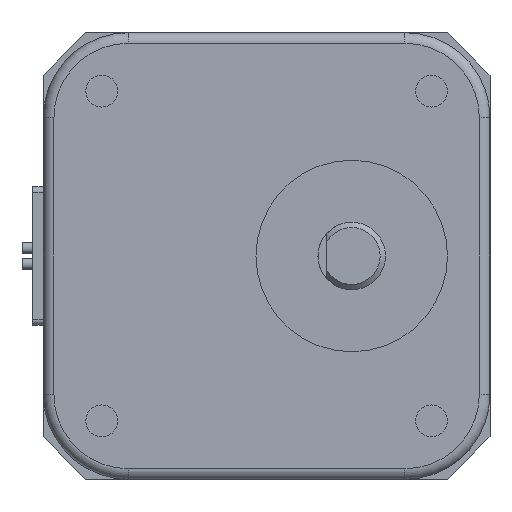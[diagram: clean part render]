
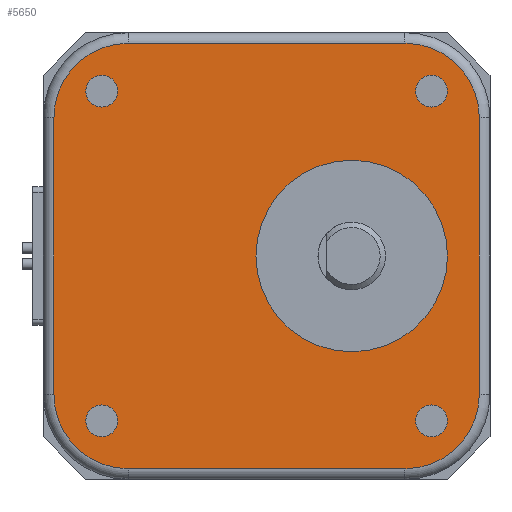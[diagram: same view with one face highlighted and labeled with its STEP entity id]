
A CAD part, front view. The second image highlights one B-rep face of the part: STEP entity #5650.
In plain terms, the highlighted planar face has unit normal (0, -1, 0) as drawn and (0, 1, 0) by its records, which use the part's own axes.
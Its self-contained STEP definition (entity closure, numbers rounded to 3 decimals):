
#4870=CARTESIAN_POINT('',(0.,30.,8.));
#4871=DIRECTION('',(0.,1.,0.));
#4872=DIRECTION('',(1.,0.,0.));
#4873=AXIS2_PLACEMENT_3D('',#4870,#4871,#4872);
#4878=CARTESIAN_POINT('',(0.,30.,8.));
#4879=DIRECTION('',(0.,1.,0.));
#4880=DIRECTION('',(-1.,0.,0.));
#4881=AXIS2_PLACEMENT_3D('',#4878,#4879,#4880);
#4886=CARTESIAN_POINT('',(-15.5,30.,-15.5));
#4887=DIRECTION('',(0.,1.,0.));
#4888=DIRECTION('',(1.,0.,0.));
#4889=AXIS2_PLACEMENT_3D('',#4886,#4887,#4888);
#4894=CARTESIAN_POINT('',(-15.5,30.,-15.5));
#4895=DIRECTION('',(0.,1.,0.));
#4896=DIRECTION('',(-1.,0.,0.));
#4897=AXIS2_PLACEMENT_3D('',#4894,#4895,#4896);
#4902=CARTESIAN_POINT('',(15.5,30.,-15.5));
#4903=DIRECTION('',(0.,1.,0.));
#4904=DIRECTION('',(1.,0.,0.));
#4905=AXIS2_PLACEMENT_3D('',#4902,#4903,#4904);
#4910=CARTESIAN_POINT('',(15.5,30.,-15.5));
#4911=DIRECTION('',(0.,1.,0.));
#4912=DIRECTION('',(-1.,0.,0.));
#4913=AXIS2_PLACEMENT_3D('',#4910,#4911,#4912);
#4918=CARTESIAN_POINT('',(-15.5,30.,15.5));
#4919=DIRECTION('',(0.,1.,0.));
#4920=DIRECTION('',(1.,0.,0.));
#4921=AXIS2_PLACEMENT_3D('',#4918,#4919,#4920);
#4926=CARTESIAN_POINT('',(-15.5,30.,15.5));
#4927=DIRECTION('',(0.,1.,0.));
#4928=DIRECTION('',(-1.,0.,0.));
#4929=AXIS2_PLACEMENT_3D('',#4926,#4927,#4928);
#4934=CARTESIAN_POINT('',(15.5,30.,15.5));
#4935=DIRECTION('',(0.,1.,0.));
#4936=DIRECTION('',(1.,0.,0.));
#4937=AXIS2_PLACEMENT_3D('',#4934,#4935,#4936);
#4942=CARTESIAN_POINT('',(15.5,30.,15.5));
#4943=DIRECTION('',(0.,1.,0.));
#4944=DIRECTION('',(-1.,0.,0.));
#4945=AXIS2_PLACEMENT_3D('',#4942,#4943,#4944);
#4950=CARTESIAN_POINT('',(-13.,30.,-13.));
#4951=DIRECTION('',(0.,1.,0.));
#4952=DIRECTION('',(0.,0.,-1.));
#4953=AXIS2_PLACEMENT_3D('',#4950,#4951,#4952);
#4958=DIRECTION('',(-1.,0.,0.));
#4959=VECTOR('',#4958,26.);
#4960=CARTESIAN_POINT('',(13.,30.,-20.));
#4961=LINE('',#4960,#4959);
#4965=CARTESIAN_POINT('',(13.,30.,-13.));
#4966=DIRECTION('',(0.,1.,0.));
#4967=DIRECTION('',(1.,0.,0.));
#4968=AXIS2_PLACEMENT_3D('',#4965,#4966,#4967);
#4973=DIRECTION('',(0.,0.,-1.));
#4974=VECTOR('',#4973,26.);
#4975=CARTESIAN_POINT('',(20.,30.,13.));
#4976=LINE('',#4975,#4974);
#4980=CARTESIAN_POINT('',(13.,30.,13.));
#4981=DIRECTION('',(0.,1.,0.));
#4982=DIRECTION('',(0.,0.,1.));
#4983=AXIS2_PLACEMENT_3D('',#4980,#4981,#4982);
#4988=DIRECTION('',(1.,0.,0.));
#4989=VECTOR('',#4988,26.);
#4990=CARTESIAN_POINT('',(-13.,30.,20.));
#4991=LINE('',#4990,#4989);
#4995=CARTESIAN_POINT('',(-13.,30.,13.));
#4996=DIRECTION('',(0.,1.,0.));
#4997=DIRECTION('',(-1.,0.,0.));
#4998=AXIS2_PLACEMENT_3D('',#4995,#4996,#4997);
#5003=DIRECTION('',(0.,0.,1.));
#5004=VECTOR('',#5003,26.);
#5005=CARTESIAN_POINT('',(-20.,30.,-13.));
#5006=LINE('',#5005,#5004);
#5444=CARTESIAN_POINT('',(9.,30.,8.));
#5445=CARTESIAN_POINT('',(-9.,30.,8.));
#5446=VERTEX_POINT('',#5444);
#5447=VERTEX_POINT('',#5445);
#5480=CARTESIAN_POINT('',(-14.,30.,-15.5));
#5481=CARTESIAN_POINT('',(-17.,30.,-15.5));
#5482=VERTEX_POINT('',#5480);
#5483=VERTEX_POINT('',#5481);
#5484=CARTESIAN_POINT('',(17.,30.,-15.5));
#5485=CARTESIAN_POINT('',(14.,30.,-15.5));
#5486=VERTEX_POINT('',#5484);
#5487=VERTEX_POINT('',#5485);
#5488=CARTESIAN_POINT('',(-14.,30.,15.5));
#5489=CARTESIAN_POINT('',(-17.,30.,15.5));
#5490=VERTEX_POINT('',#5488);
#5491=VERTEX_POINT('',#5489);
#5492=CARTESIAN_POINT('',(17.,30.,15.5));
#5493=CARTESIAN_POINT('',(14.,30.,15.5));
#5494=VERTEX_POINT('',#5492);
#5495=VERTEX_POINT('',#5493);
#5512=CARTESIAN_POINT('',(-13.,30.,-20.));
#5513=CARTESIAN_POINT('',(-20.,30.,-13.));
#5514=VERTEX_POINT('',#5512);
#5515=VERTEX_POINT('',#5513);
#5520=CARTESIAN_POINT('',(-20.,30.,13.));
#5521=VERTEX_POINT('',#5520);
#5524=CARTESIAN_POINT('',(-13.,30.,20.));
#5525=VERTEX_POINT('',#5524);
#5528=CARTESIAN_POINT('',(13.,30.,20.));
#5529=VERTEX_POINT('',#5528);
#5532=CARTESIAN_POINT('',(20.,30.,13.));
#5533=VERTEX_POINT('',#5532);
#5536=CARTESIAN_POINT('',(20.,30.,-13.));
#5537=VERTEX_POINT('',#5536);
#5540=CARTESIAN_POINT('',(13.,30.,-20.));
#5541=VERTEX_POINT('',#5540);
#5598=CARTESIAN_POINT('',(0.,30.,0.));
#5599=DIRECTION('',(0.,1.,0.));
#5600=DIRECTION('',(1.,0.,0.));
#5601=AXIS2_PLACEMENT_3D('',#5598,#5599,#5600);
#5602=PLANE('',#5601);
#5604=ORIENTED_EDGE('',*,*,#5603,.F.);
#5606=ORIENTED_EDGE('',*,*,#5605,.F.);
#5607=ORIENTED_EDGE('',*,*,#5588,.F.);
#5609=ORIENTED_EDGE('',*,*,#5608,.F.);
#5611=ORIENTED_EDGE('',*,*,#5610,.F.);
#5613=ORIENTED_EDGE('',*,*,#5612,.F.);
#5615=ORIENTED_EDGE('',*,*,#5614,.F.);
#5617=ORIENTED_EDGE('',*,*,#5616,.F.);
#5618=EDGE_LOOP('',(#5604,#5606,#5607,#5609,#5611,#5613,#5615,#5617));
#5619=FACE_OUTER_BOUND('',#5618,.F.);
#5621=ORIENTED_EDGE('',*,*,#5620,.T.);
#5623=ORIENTED_EDGE('',*,*,#5622,.T.);
#5624=EDGE_LOOP('',(#5621,#5623));
#5625=FACE_BOUND('',#5624,.F.);
#5627=ORIENTED_EDGE('',*,*,#5626,.T.);
#5629=ORIENTED_EDGE('',*,*,#5628,.T.);
#5630=EDGE_LOOP('',(#5627,#5629));
#5631=FACE_BOUND('',#5630,.F.);
#5633=ORIENTED_EDGE('',*,*,#5632,.T.);
#5635=ORIENTED_EDGE('',*,*,#5634,.T.);
#5636=EDGE_LOOP('',(#5633,#5635));
#5637=FACE_BOUND('',#5636,.F.);
#5639=ORIENTED_EDGE('',*,*,#5638,.T.);
#5641=ORIENTED_EDGE('',*,*,#5640,.T.);
#5642=EDGE_LOOP('',(#5639,#5641));
#5643=FACE_BOUND('',#5642,.F.);
#5645=ORIENTED_EDGE('',*,*,#5644,.T.);
#5647=ORIENTED_EDGE('',*,*,#5646,.T.);
#5648=EDGE_LOOP('',(#5645,#5647));
#5649=FACE_BOUND('',#5648,.F.);
#4874=CIRCLE('',#4873,9.);
#4882=CIRCLE('',#4881,9.);
#4890=CIRCLE('',#4889,1.5);
#4898=CIRCLE('',#4897,1.5);
#4906=CIRCLE('',#4905,1.5);
#4914=CIRCLE('',#4913,1.5);
#4922=CIRCLE('',#4921,1.5);
#4930=CIRCLE('',#4929,1.5);
#4938=CIRCLE('',#4937,1.5);
#4946=CIRCLE('',#4945,1.5);
#4954=CIRCLE('',#4953,7.);
#4969=CIRCLE('',#4968,7.);
#4984=CIRCLE('',#4983,7.);
#4999=CIRCLE('',#4998,7.);
#5588=EDGE_CURVE('',#5537,#5541,#4969,.T.);
#5603=EDGE_CURVE('',#5514,#5515,#4954,.T.);
#5605=EDGE_CURVE('',#5541,#5514,#4961,.T.);
#5608=EDGE_CURVE('',#5533,#5537,#4976,.T.);
#5610=EDGE_CURVE('',#5529,#5533,#4984,.T.);
#5612=EDGE_CURVE('',#5525,#5529,#4991,.T.);
#5614=EDGE_CURVE('',#5521,#5525,#4999,.T.);
#5616=EDGE_CURVE('',#5515,#5521,#5006,.T.);
#5620=EDGE_CURVE('',#5482,#5483,#4890,.T.);
#5622=EDGE_CURVE('',#5483,#5482,#4898,.T.);
#5626=EDGE_CURVE('',#5486,#5487,#4906,.T.);
#5628=EDGE_CURVE('',#5487,#5486,#4914,.T.);
#5632=EDGE_CURVE('',#5490,#5491,#4922,.T.);
#5634=EDGE_CURVE('',#5491,#5490,#4930,.T.);
#5638=EDGE_CURVE('',#5494,#5495,#4938,.T.);
#5640=EDGE_CURVE('',#5495,#5494,#4946,.T.);
#5644=EDGE_CURVE('',#5446,#5447,#4874,.T.);
#5646=EDGE_CURVE('',#5447,#5446,#4882,.T.);
#5650=ADVANCED_FACE('',(#5619,#5625,#5631,#5637,#5643,#5649),#5602,.T.);
